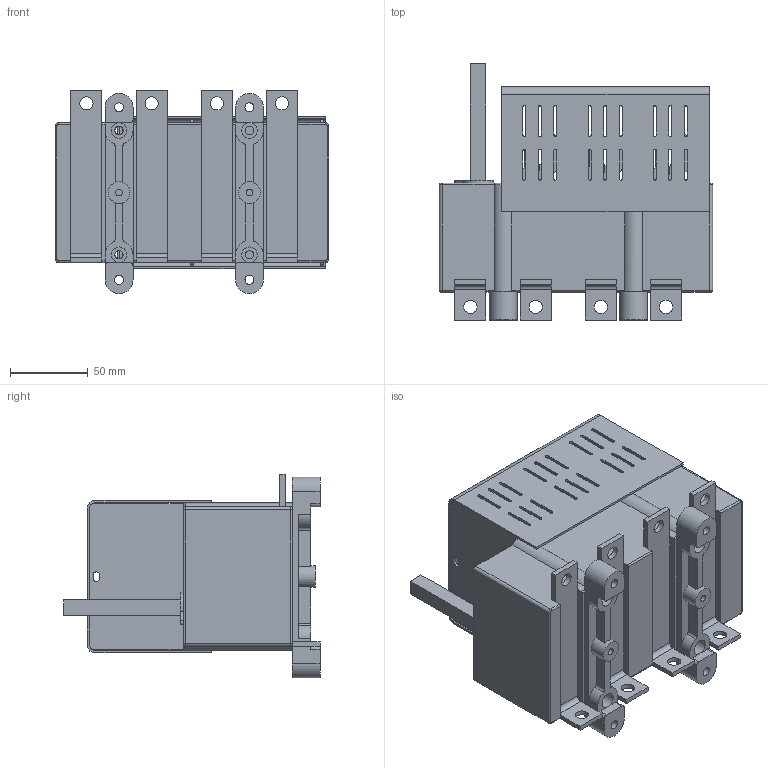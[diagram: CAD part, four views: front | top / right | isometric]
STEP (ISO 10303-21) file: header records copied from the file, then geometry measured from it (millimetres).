
FILE_DESCRIPTION(/* description */ (''),/* implementation_level */ '2;1');
FILE_NAME(/* name */ 'RAB 00 P3 NB.stp',/* time_stamp */ '2021-08-19T11:27:54+02:00',/* author */ (''),/* organization */ (''),/* preprocessor_version */ 'ST-DEVELOPER v18.1',/* originating_system */ 'SIEMENS PLM Software NX 1965',/* authorisation */ '');
FILE_SCHEMA (('AUTOMOTIVE_DESIGN { 1 0 10303 214 3 1 1 1 }'));
Length unit declared in the file: millimetre
Products named in the file (1): RAB 00 P3 NB_stp
Bounding box: 176 x 165 x 131.18 mm (x, y, z)
Volume: 1232395.8 mm3; surface area: 224380.3 mm2
Topology: 1 solids, 1 shells, 860 faces, 2444 edges, 1594 vertices
Faces by surface type: plane 542, cylinder 306, torus 7, bspline 5
Full cylindrical faces by diameter (mm): 2.7 x4, 4.3 x2, 5 x6, 5.3 x4, 5.8 x4, 8.5 x8, 10 x8, 14 x2
Entity records: 27877 total; most frequent: CARTESIAN_POINT 4997, ORIENTED_EDGE 4764, DIRECTION 4694, EDGE_CURVE 2382, LINE 1732, VECTOR 1732, VERTEX_POINT 1570, AXIS2_PLACEMENT_3D 1481
